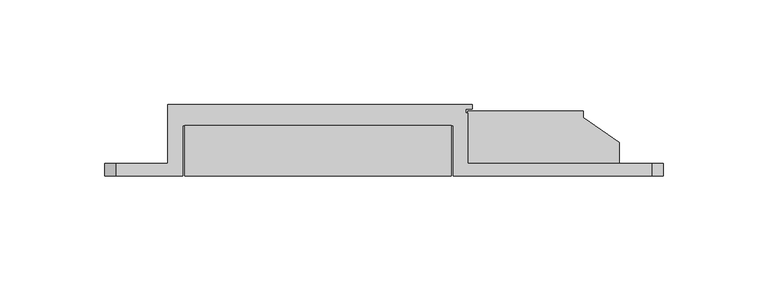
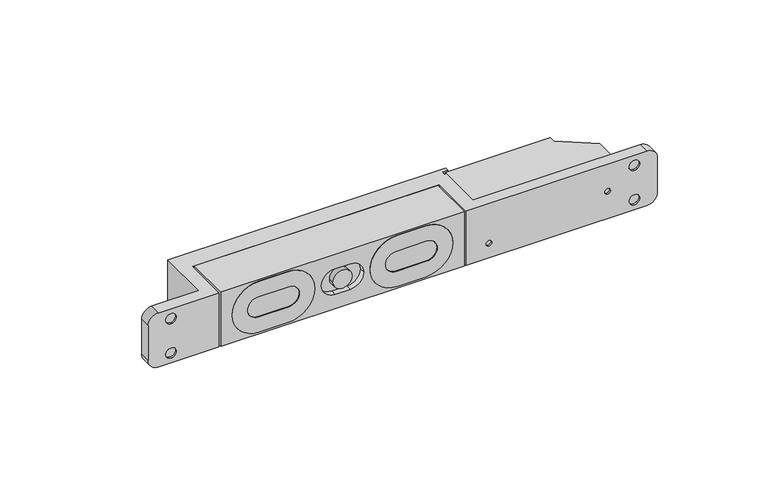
"""IFC4 building model written with IfcOpenShell, lengths in millimetres: proxy geometry, Электромагнитный_замок_ML-1200N2(1)_с_герконом_AccordTec_R19 : Электромагнитный_замок_ML-1200N2(1)_с_герконом_AccordTec_R19."""

from ifc_helpers import new_model, si_unit, point, frame, frame_2d, origin, origin_with_axes, place, context, project, spatial, polyline, circle_curve, trimmed, segment, composite_curve, outline, extrude, source, transform, mapped, element, save
from ifc_brep_helpers import plane_surface, cylinder_surface, revolved_surface, advanced_brep


def generic_models_7b6c8938(model_context):
    return source(origin(), model_context, "Body", "SolidModel", [
        extrude(outline(composite_curve([segment(trimmed(circle_curve(frame_2d((14.96, 58.04)), 14.04), [point((29.0, 58.04))], [point((15.0, 44.000057))], False, "CARTESIAN"), True, "CONTINUOUS"), segment(trimmed(circle_curve(frame_2d((15.04, 58.04)), 14.04), [point((15.0, 44.000057))], [point((1.0, 58.04))], False, "CARTESIAN"), True, "CONTINUOUS"), segment(polyline([(1.0, 58.04), (1.0, 72.96)]), True, "CONTINUOUS"), segment(trimmed(circle_curve(frame_2d((15.04, 72.96)), 14.04), [point((1.0, 72.96))], [point((15.0, 86.999943))], False, "CARTESIAN"), True, "CONTINUOUS"), segment(trimmed(circle_curve(frame_2d((14.96, 72.96)), 14.04), [point((15.0, 86.999943))], [point((29.0, 72.96))], False, "CARTESIAN"), True, "CONTINUOUS"), segment(polyline([(29.0, 72.96), (29.0, 58.04)]), True, "CONTINUOUS")], self_intersect=False), holes=[composite_curve([segment(trimmed(circle_curve(frame_2d((15.0, 73.5)), 5.5), [point((15.0, 79.0))], [point((9.5, 73.5))], True, "CARTESIAN"), True, "CONTINUOUS"), segment(polyline([(9.5, 73.5), (9.5, 57.5)]), True, "CONTINUOUS"), segment(trimmed(circle_curve(frame_2d((15.0, 57.5)), 5.5), [point((9.5, 57.5))], [point((15.0, 52.0))], True, "CARTESIAN"), True, "CONTINUOUS"), segment(trimmed(circle_curve(frame_2d((15.0, 57.5)), 5.5), [point((15.0, 52.0))], [point((20.5, 57.5))], True, "CARTESIAN"), True, "CONTINUOUS"), segment(polyline([(20.5, 57.5), (20.5, 73.5)]), True, "CONTINUOUS"), segment(trimmed(circle_curve(frame_2d((15.0, 73.5)), 5.5), [point((20.5, 73.5))], [point((15.0, 79.0))], True, "CARTESIAN"), True, "CONTINUOUS")], self_intersect=False)]), frame((0.0, 0.0, 0.0), z_axis=(0.0, 1.0, 0.0), x_axis=(0.0, 0.0, 1.0)), (0.0, 0.0, 1.0), 1.0),
        extrude(outline(composite_curve([segment(trimmed(circle_curve(frame_2d((15.04, 130.04)), 14.04), [point((15.0, 116.000057))], [point((1.0, 130.04))], False, "CARTESIAN"), True, "CONTINUOUS"), segment(polyline([(1.0, 130.04), (1.0, 144.96)]), True, "CONTINUOUS"), segment(trimmed(circle_curve(frame_2d((15.04, 144.96)), 14.04), [point((1.0, 144.96))], [point((15.0, 158.999943))], False, "CARTESIAN"), True, "CONTINUOUS"), segment(trimmed(circle_curve(frame_2d((14.96, 144.96)), 14.04), [point((15.0, 158.999943))], [point((29.0, 144.96))], False, "CARTESIAN"), True, "CONTINUOUS"), segment(polyline([(29.0, 144.96), (29.0, 130.04)]), True, "CONTINUOUS"), segment(trimmed(circle_curve(frame_2d((14.96, 130.04)), 14.04), [point((29.0, 130.04))], [point((15.0, 116.000057))], False, "CARTESIAN"), True, "CONTINUOUS")], self_intersect=False), holes=[composite_curve([segment(polyline([(20.5, 129.5), (20.5, 145.5)]), True, "CONTINUOUS"), segment(trimmed(circle_curve(frame_2d((15.0, 145.5)), 5.5), [point((20.5, 145.5))], [point((15.0, 151.0))], True, "CARTESIAN"), True, "CONTINUOUS"), segment(trimmed(circle_curve(frame_2d((15.0, 145.5)), 5.5), [point((15.0, 151.0))], [point((9.5, 145.5))], True, "CARTESIAN"), True, "CONTINUOUS"), segment(polyline([(9.5, 145.5), (9.5, 129.5)]), True, "CONTINUOUS"), segment(trimmed(circle_curve(frame_2d((15.0, 129.5)), 5.5), [point((9.5, 129.5))], [point((15.0, 124.0))], True, "CARTESIAN"), True, "CONTINUOUS"), segment(trimmed(circle_curve(frame_2d((15.0, 129.5)), 5.5), [point((15.0, 124.0))], [point((20.5, 129.5))], True, "CARTESIAN"), True, "CONTINUOUS")], self_intersect=False)]), frame((0.0, 0.0, 0.0), z_axis=(0.0, 1.0, 0.0), x_axis=(0.0, 0.0, 1.0)), (0.0, 0.0, 1.0), 1.0),
        advanced_brep(
        [(165.0, 24.0, 30.0), (38.0, 24.0, 30.0), (38.0, 0.0, 30.0), (165.0, 0.0, 30.0), (165.0, 24.0, 0.0), (165.0, 0.0, 0.0), (38.0, 0.0, 0.0), (38.0, 24.0, 0.0), (44.000057, 0.0, 15.0), (58.04, 0.0, 29.0), (72.96, 0.0, 29.0), (86.999943, 0.0, 15.0), (72.96, 0.0, 1.0), (58.04, 0.0, 1.0), (130.04, 0.0, 1.0), (116.000057, 0.0, 15.0), (130.04, 0.0, 29.0), (144.96, 0.0, 29.0), (158.999943, 0.0, 15.0), (144.96, 0.0, 1.0), (97.5, 0.0, 22.0), (105.5, 0.0, 22.0), (112.5, 0.0, 15.0), (105.5, 0.0, 8.0), (97.5, 0.0, 8.0), (90.5, 0.0, 15.0), (57.5, 0.0, 20.5), (52.0, 0.0, 15.0), (57.5, 0.0, 9.5), (73.5, 0.0, 9.5), (79.0, 0.0, 15.0), (73.5, 0.0, 20.5), (124.0, 0.0, 15.0), (129.5, 0.0, 9.5), (145.5, 0.0, 9.5), (151.0, 0.0, 15.0), (145.5, 0.0, 20.5), (129.5, 0.0, 20.5), (106.5, 0.0, 15.0), (96.5, 0.0, 15.0), (58.04, 3.0, 29.0), (44.000057, 3.0, 15.0), (58.04, 3.0, 1.0), (72.96, 3.0, 1.0), (86.999943, 3.0, 15.0), (72.96, 3.0, 29.0), (52.0, 3.0, 15.0), (57.5, 3.0, 20.5), (73.5, 3.0, 20.5), (79.0, 3.0, 15.0), (73.5, 3.0, 9.5), (57.5, 3.0, 9.5), (116.000057, 3.0, 15.0), (130.04, 3.0, 1.0), (144.96, 3.0, 1.0), (158.999943, 3.0, 15.0), (144.96, 3.0, 29.0), (130.04, 3.0, 29.0), (129.5, 3.0, 9.5), (124.0, 3.0, 15.0), (129.5, 3.0, 20.5), (145.5, 3.0, 20.5), (151.0, 3.0, 15.0), (145.5, 3.0, 9.5), (105.5, 3.0, 22.0), (97.5, 3.0, 22.0), (90.5, 3.0, 15.0), (97.5, 3.0, 8.0), (105.5, 3.0, 8.0), (112.5, 3.0, 15.0), (96.5, 3.0, 15.0), (106.5, 3.0, 15.0)],
        [
            (0, 1),
            (1, 2),
            (2, 3),
            (3, 0),
            (4, 5),
            (5, 6),
            (6, 7),
            (7, 4),
            (0, 4),
            (7, 1),
            (6, 2),
            (5, 3),
            (8, 9, circle_curve(frame((58.04, 0.0, 14.96), z_axis=(0.0, 1.0, 0.0), x_axis=(1.0, 0.0, 0.0)), 14.04)),
            (9, 10),
            (10, 11, circle_curve(frame((72.96, 0.0, 14.96), z_axis=(0.0, 1.0, 0.0), x_axis=(1.0, 0.0, 0.0)), 14.04)),
            (11, 12, circle_curve(frame((72.96, 0.0, 15.04), z_axis=(0.0, 1.0, 0.0), x_axis=(1.0, 0.0, 0.0)), 14.04)),
            (12, 13),
            (13, 8, circle_curve(frame((58.04, 0.0, 15.04), z_axis=(0.0, 1.0, 0.0), x_axis=(1.0, 0.0, 0.0)), 14.04)),
            (14, 15, circle_curve(frame((130.04, 0.0, 15.04), z_axis=(0.0, 1.0, 0.0), x_axis=(1.0, 0.0, 0.0)), 14.04)),
            (15, 16, circle_curve(frame((130.04, 0.0, 14.96), z_axis=(0.0, 1.0, 0.0), x_axis=(1.0, 0.0, 0.0)), 14.04)),
            (16, 17),
            (17, 18, circle_curve(frame((144.96, 0.0, 14.96), z_axis=(0.0, 1.0, 0.0), x_axis=(1.0, 0.0, 0.0)), 14.04)),
            (18, 19, circle_curve(frame((144.96, 0.0, 15.04), z_axis=(0.0, 1.0, 0.0), x_axis=(1.0, 0.0, 0.0)), 14.04)),
            (19, 14),
            (20, 21),
            (21, 22, circle_curve(frame((105.5, 0.0, 15.0), z_axis=(0.0, 1.0, 0.0), x_axis=(1.0, 0.0, 0.0)), 7.0)),
            (22, 23, circle_curve(frame((105.5, 0.0, 15.0), z_axis=(0.0, 1.0, 0.0), x_axis=(1.0, 0.0, 0.0)), 7.0)),
            (23, 24),
            (24, 25, circle_curve(frame((97.5, 0.0, 15.0), z_axis=(0.0, 1.0, 0.0), x_axis=(1.0, 0.0, 0.0)), 7.0)),
            (25, 20, circle_curve(frame((97.5, 0.0, 15.0), z_axis=(0.0, 1.0, 0.0), x_axis=(1.0, 0.0, 0.0)), 7.0)),
            (26, 27, circle_curve(frame((57.5, 0.0, 15.0), z_axis=(0.0, -1.0, 0.0), x_axis=(1.0, 0.0, 0.0)), 5.5)),
            (27, 28, circle_curve(frame((57.5, 0.0, 15.0), z_axis=(0.0, -1.0, 0.0), x_axis=(1.0, 0.0, 0.0)), 5.5)),
            (28, 29),
            (29, 30, circle_curve(frame((73.5, 0.0, 15.0), z_axis=(0.0, -1.0, 0.0), x_axis=(1.0, 0.0, 0.0)), 5.5)),
            (30, 31, circle_curve(frame((73.5, 0.0, 15.0), z_axis=(0.0, -1.0, 0.0), x_axis=(1.0, 0.0, 0.0)), 5.5)),
            (31, 26),
            (32, 33, circle_curve(frame((129.5, 0.0, 15.0), z_axis=(0.0, -1.0, 0.0), x_axis=(1.0, 0.0, 0.0)), 5.5)),
            (33, 34),
            (34, 35, circle_curve(frame((145.5, 0.0, 15.0), z_axis=(0.0, -1.0, 0.0), x_axis=(1.0, 0.0, 0.0)), 5.5)),
            (35, 36, circle_curve(frame((145.5, 0.0, 15.0), z_axis=(0.0, -1.0, 0.0), x_axis=(1.0, 0.0, 0.0)), 5.5)),
            (36, 37),
            (37, 32, circle_curve(frame((129.5, 0.0, 15.0), z_axis=(0.0, -1.0, 0.0), x_axis=(1.0, 0.0, 0.0)), 5.5)),
            (38, 39, circle_curve(frame((101.5, 0.0, 15.0), z_axis=(0.0, -1.0, 0.0), x_axis=(1.0, 0.0, 0.0)), 5.0)),
            (39, 38, circle_curve(frame((101.5, 0.0, 15.0), z_axis=(0.0, -1.0, 0.0), x_axis=(1.0, 0.0, 0.0)), 5.0)),
            (40, 41, circle_curve(frame((58.04, 3.0, 14.96), z_axis=(0.0, -1.0, 0.0), x_axis=(1.0, 0.0, 0.0)), 14.04)),
            (41, 42, circle_curve(frame((58.04, 3.0, 15.04), z_axis=(0.0, -1.0, 0.0), x_axis=(1.0, 0.0, 0.0)), 14.04)),
            (42, 43),
            (43, 44, circle_curve(frame((72.96, 3.0, 15.04), z_axis=(0.0, -1.0, 0.0), x_axis=(1.0, 0.0, 0.0)), 14.04)),
            (44, 45, circle_curve(frame((72.96, 3.0, 14.96), z_axis=(0.0, -1.0, 0.0), x_axis=(1.0, 0.0, 0.0)), 14.04)),
            (45, 40),
            (46, 47, circle_curve(frame((57.5, 3.0, 15.0), z_axis=(0.0, 1.0, 0.0), x_axis=(1.0, 0.0, 0.0)), 5.5)),
            (47, 48),
            (48, 49, circle_curve(frame((73.5, 3.0, 15.0), z_axis=(0.0, 1.0, 0.0), x_axis=(1.0, 0.0, 0.0)), 5.5)),
            (49, 50, circle_curve(frame((73.5, 3.0, 15.0), z_axis=(0.0, 1.0, 0.0), x_axis=(1.0, 0.0, 0.0)), 5.5)),
            (50, 51),
            (51, 46, circle_curve(frame((57.5, 3.0, 15.0), z_axis=(0.0, 1.0, 0.0), x_axis=(1.0, 0.0, 0.0)), 5.5)),
            (52, 53, circle_curve(frame((130.04, 3.0, 15.04), z_axis=(0.0, -1.0, 0.0), x_axis=(1.0, 0.0, 0.0)), 14.04)),
            (53, 54),
            (54, 55, circle_curve(frame((144.96, 3.0, 15.04), z_axis=(0.0, -1.0, 0.0), x_axis=(1.0, 0.0, 0.0)), 14.04)),
            (55, 56, circle_curve(frame((144.96, 3.0, 14.96), z_axis=(0.0, -1.0, 0.0), x_axis=(1.0, 0.0, 0.0)), 14.04)),
            (56, 57),
            (57, 52, circle_curve(frame((130.04, 3.0, 14.96), z_axis=(0.0, -1.0, 0.0), x_axis=(1.0, 0.0, 0.0)), 14.04)),
            (58, 59, circle_curve(frame((129.5, 3.0, 15.0), z_axis=(0.0, 1.0, 0.0), x_axis=(1.0, 0.0, 0.0)), 5.5)),
            (59, 60, circle_curve(frame((129.5, 3.0, 15.0), z_axis=(0.0, 1.0, 0.0), x_axis=(1.0, 0.0, 0.0)), 5.5)),
            (60, 61),
            (61, 62, circle_curve(frame((145.5, 3.0, 15.0), z_axis=(0.0, 1.0, 0.0), x_axis=(1.0, 0.0, 0.0)), 5.5)),
            (62, 63, circle_curve(frame((145.5, 3.0, 15.0), z_axis=(0.0, 1.0, 0.0), x_axis=(1.0, 0.0, 0.0)), 5.5)),
            (63, 58),
            (64, 65),
            (65, 66, circle_curve(frame((97.5, 3.0, 15.0), z_axis=(0.0, -1.0, 0.0), x_axis=(1.0, 0.0, 0.0)), 7.0)),
            (66, 67, circle_curve(frame((97.5, 3.0, 15.0), z_axis=(0.0, -1.0, 0.0), x_axis=(1.0, 0.0, 0.0)), 7.0)),
            (67, 68),
            (68, 69, circle_curve(frame((105.5, 3.0, 15.0), z_axis=(0.0, -1.0, 0.0), x_axis=(1.0, 0.0, 0.0)), 7.0)),
            (69, 64, circle_curve(frame((105.5, 3.0, 15.0), z_axis=(0.0, -1.0, 0.0), x_axis=(1.0, 0.0, 0.0)), 7.0)),
            (70, 71, circle_curve(frame((101.5, 3.0, 15.0), z_axis=(0.0, 1.0, 0.0), x_axis=(1.0, 0.0, 0.0)), 5.0)),
            (71, 70, circle_curve(frame((101.5, 3.0, 15.0), z_axis=(0.0, 1.0, 0.0), x_axis=(1.0, 0.0, 0.0)), 5.0)),
            (40, 9),
            (8, 41),
            (13, 42),
            (12, 43),
            (11, 44),
            (10, 45),
            (46, 27),
            (26, 47),
            (31, 48),
            (30, 49),
            (29, 50),
            (28, 51),
            (52, 15),
            (14, 53),
            (19, 54),
            (18, 55),
            (17, 56),
            (16, 57),
            (58, 33),
            (32, 59),
            (37, 60),
            (36, 61),
            (35, 62),
            (34, 63),
            (64, 21),
            (20, 65),
            (25, 66),
            (24, 67),
            (23, 68),
            (22, 69),
            (70, 39),
            (38, 71),
        ],
        [
            plane_surface(frame((38.0, 24.0, 30.0), z_axis=(0.0, 0.0, 1.0), x_axis=(-1.0, 0.0, 0.0))),
            plane_surface(frame((38.0, 24.0, 0.0), z_axis=(0.0, 0.0, -1.0), x_axis=(1.0, 0.0, 0.0))),
            plane_surface(frame((165.0, 24.0, 30.0), z_axis=(0.0, 1.0, 0.0), x_axis=(0.0, 0.0, -1.0))),
            plane_surface(frame((38.0, 24.0, 30.0), z_axis=(-1.0, 0.0, 0.0), x_axis=(0.0, 0.0, -1.0))),
            plane_surface(frame((38.0, 0.0, 30.0), z_axis=(0.0, -1.0, 0.0), x_axis=(0.0, 0.0, -1.0))),
            plane_surface(frame((165.0, 0.0, 30.0), z_axis=(1.0, 0.0, 0.0), x_axis=(0.0, 0.0, -1.0))),
            plane_surface(frame((72.08, 3.0, 14.96), z_axis=(0.0, -1.0, 0.0), x_axis=(0.0, 0.0, -1.0))),
            revolved_surface(polyline([(72.08, 0.0, 14.96), (72.08, 3.0, 14.96)]), (58.04, 3.0, 14.96), (0.0, -1.0, 0.0)),
            revolved_surface(polyline([(72.08, 0.0, 15.04), (72.08, 3.0, 15.04)]), (58.04, 3.0, 15.04), (0.0, -1.0, 0.0)),
            plane_surface(frame((58.04, -1.0, 1.0), z_axis=(0.0, 0.0, 1.0), x_axis=(0.0, 1.0, 0.0))),
            revolved_surface(polyline([(87.0, 0.0, 15.04), (87.0, 3.0, 15.04)]), (72.96, 3.0, 15.04), (0.0, -1.0, 0.0)),
            revolved_surface(polyline([(87.0, 0.0, 14.96), (87.0, 3.0, 14.96)]), (72.96, 3.0, 14.96), (0.0, -1.0, 0.0)),
            plane_surface(frame((72.96, -1.0, 29.0), z_axis=(0.0, 0.0, -1.0), x_axis=(0.0, 1.0, 0.0))),
            cylinder_surface(frame((57.5, 0.0, 15.0), z_axis=(0.0, 1.0, 0.0), x_axis=(1.0, 0.0, 0.0)), 5.5),
            plane_surface(frame((57.5, -1.0, 20.5), z_axis=(0.0, 0.0, 1.0), x_axis=(0.0, 1.0, 0.0))),
            cylinder_surface(frame((73.5, 0.0, 15.0), z_axis=(0.0, 1.0, 0.0), x_axis=(1.0, 0.0, 0.0)), 5.5),
            plane_surface(frame((73.5, -1.0, 9.5), z_axis=(0.0, 0.0, -1.0), x_axis=(0.0, 1.0, 0.0))),
            revolved_surface(polyline([(144.07999999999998, 0.0, 15.04), (144.07999999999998, 3.0, 15.04)]), (130.04, 0.0, 15.04), (0.0, -1.0, 0.0)),
            plane_surface(frame((130.04, -1.0, 1.0), z_axis=(0.0, 0.0, 1.0), x_axis=(0.0, 1.0, 0.0))),
            revolved_surface(polyline([(159.0, 0.0, 15.04), (159.0, 3.0, 15.04)]), (144.96, 0.0, 15.04), (0.0, -1.0, 0.0)),
            revolved_surface(polyline([(159.0, 0.0, 14.96), (159.0, 3.0, 14.96)]), (144.96, 0.0, 14.96), (0.0, -1.0, 0.0)),
            plane_surface(frame((144.96, -1.0, 29.0), z_axis=(0.0, 0.0, -1.0), x_axis=(0.0, 1.0, 0.0))),
            revolved_surface(polyline([(144.07999999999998, 0.0, 14.96), (144.07999999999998, 3.0, 14.96)]), (130.04, 0.0, 14.96), (0.0, -1.0, 0.0)),
            cylinder_surface(frame((129.5, 0.0, 15.0), z_axis=(0.0, 1.0, 0.0), x_axis=(1.0, 0.0, 0.0)), 5.5),
            plane_surface(frame((129.5, -1.0, 20.5), z_axis=(0.0, 0.0, 1.0), x_axis=(0.0, 1.0, 0.0))),
            cylinder_surface(frame((145.5, 0.0, 15.0), z_axis=(0.0, 1.0, 0.0), x_axis=(1.0, 0.0, 0.0)), 5.5),
            plane_surface(frame((145.5, -1.0, 9.5), z_axis=(0.0, 0.0, -1.0), x_axis=(0.0, 1.0, 0.0))),
            plane_surface(frame((105.5, -1.0, 22.0), z_axis=(0.0, 0.0, -1.0), x_axis=(0.0, 1.0, 0.0))),
            revolved_surface(polyline([(104.5, 0.0, 15.0), (104.5, 3.0, 15.0)]), (97.5, 0.0, 15.0), (0.0, -1.0, 0.0)),
            plane_surface(frame((97.5, -1.0, 8.0), z_axis=(0.0, 0.0, 1.0), x_axis=(0.0, 1.0, 0.0))),
            revolved_surface(polyline([(112.5, 0.0, 15.0), (112.5, 3.0, 15.0)]), (105.5, 0.0, 15.0), (0.0, -1.0, 0.0)),
            cylinder_surface(frame((101.5, 0.0, 15.0), z_axis=(0.0, 1.0, 0.0), x_axis=(1.0, 0.0, 0.0)), 5.0),
        ],
        [
            (0, [[1, 2, 3, 4]]),
            (1, [[5, 6, 7, 8]]),
            (2, [[-1, 9, -8, 10]]),
            (3, [[-2, -10, -7, 11]]),
            (4, [[-3, -11, -6, 12], [13, 14, 15, 16, 17, 18], [19, 20, 21, 22, 23, 24], [25, 26, 27, 28, 29, 30]]),
            (4, [[31, 32, 33, 34, 35, 36]]),
            (4, [[37, 38, 39, 40, 41, 42]]),
            (4, [[43, 44]]),
            (5, [[-4, -12, -5, -9]]),
            (6, [[45, 46, 47, 48, 49, 50], [51, 52, 53, 54, 55, 56]]),
            (6, [[57, 58, 59, 60, 61, 62], [63, 64, 65, 66, 67, 68]]),
            (6, [[69, 70, 71, 72, 73, 74], [75, 76]]),
            (7, [[-45, 77, -13, 78]]),
            (8, [[-46, -78, -18, 79]]),
            (9, [[-47, -79, -17, 80]]),
            (10, [[-48, -80, -16, 81]]),
            (11, [[-49, -81, -15, 82]]),
            (12, [[-50, -82, -14, -77]]),
            (13, [[-51, 83, -31, 84]]),
            (14, [[-52, -84, -36, 85]]),
            (15, [[-53, -85, -35, 86]]),
            (15, [[-54, -86, -34, 87]]),
            (16, [[-55, -87, -33, 88]]),
            (13, [[-56, -88, -32, -83]]),
            (17, [[-57, 89, -19, 90]]),
            (18, [[-58, -90, -24, 91]]),
            (19, [[-59, -91, -23, 92]]),
            (20, [[-60, -92, -22, 93]]),
            (21, [[-61, -93, -21, 94]]),
            (22, [[-62, -94, -20, -89]]),
            (23, [[-63, 95, -37, 96]]),
            (23, [[-64, -96, -42, 97]]),
            (24, [[-65, -97, -41, 98]]),
            (25, [[-66, -98, -40, 99]]),
            (25, [[-67, -99, -39, 100]]),
            (26, [[-68, -100, -38, -95]]),
            (27, [[-69, 101, -25, 102]]),
            (28, [[-70, -102, -30, 103]]),
            (28, [[-71, -103, -29, 104]]),
            (29, [[-72, -104, -28, 105]]),
            (30, [[-73, -105, -27, 106]]),
            (30, [[-74, -106, -26, -101]]),
            (31, [[-75, 107, -43, 108]]),
            (31, [[-76, -108, -44, -107]]),
        ],
    ),
        advanced_brep(
        [(37.0, 0.0, 30.0), (37.0, 24.0, 30.0), (166.0, 24.0, 30.0), (166.0, 0.0, 30.0), (260.5, 0.0, 30.0), (260.5, 6.0, 30.0), (173.0, 6.0, 30.0), (173.0, 30.0, 30.0), (172.0, 30.0, 30.0), (172.0, 32.0, 30.0), (175.0, 32.0, 30.0), (175.0, 34.0, 30.0), (30.0, 34.0, 30.0), (30.0, 6.0, 30.0), (5.4717121, 6.0, 30.0), (5.4717121, 0.0, 30.0), (30.0, 6.0, 0.0), (30.0, 34.0, 0.0), (175.0, 34.0, 0.0), (175.0, 32.0, 0.0), (172.0, 32.0, 0.0), (172.0, 30.0, 0.0), (173.0, 30.0, 0.0), (173.0, 6.0, 0.0), (260.5, 6.0, 0.0), (260.5, 0.0, 0.0), (166.0, 0.0, 0.0), (166.0, 24.0, 0.0), (37.0, 24.0, 0.0), (37.0, 0.0, 0.0), (5.5, 0.0, 0.0), (5.5, 6.0, 0.0), (266.0, 0.0, 5.5), (266.0, 0.0, 24.5), (179.5, 0.0, 8.0), (176.5, 0.0, 8.0), (241.5, 0.0, 15.0), (238.5, 0.0, 15.0), (256.75, 0.0, 24.5), (251.25, 0.0, 24.5), (256.75, 0.0, 5.5), (251.25, 0.0, 5.5), (266.0, 6.0, 5.5), (266.0, 6.0, 24.5), (251.25, 6.0, 24.5), (256.75, 6.0, 24.5), (251.25, 6.0, 5.5), (256.75, 6.0, 5.5), (58.0, 34.0, 15.0), (64.0, 34.0, 15.0), (0.0, 6.0, 5.5), (0.0, 6.0, 24.5282879), (9.25, 6.0, 24.5), (14.75, 6.0, 24.5), (9.25, 6.0, 5.5), (14.75, 6.0, 5.5), (0.0, 0.0, 5.5), (0.0, 0.0, 24.5282879), (14.75, 0.0, 24.5), (9.25, 0.0, 24.5), (14.75, 0.0, 5.5), (9.25, 0.0, 5.5), (9.25, 1.0, 24.5), (14.75, 1.0, 24.5), (9.25, 1.0, 5.5), (14.75, 1.0, 5.5), (176.5, 1.0, 8.0), (179.5, 1.0, 8.0), (238.5, 1.0, 15.0), (241.5, 1.0, 15.0), (251.25, 1.0, 24.5), (256.75, 1.0, 24.5), (251.25, 1.0, 5.5), (256.75, 1.0, 5.5), (58.0, 33.0, 15.0), (64.0, 33.0, 15.0), (9.25, 5.0, 24.5), (14.75, 5.0, 24.5), (9.25, 5.0, 5.5), (14.75, 5.0, 5.5), (251.25, 5.0, 24.5), (256.75, 5.0, 24.5), (251.25, 5.0, 5.5), (256.75, 5.0, 5.5)],
        [
            (0, 1),
            (1, 2),
            (2, 3),
            (3, 4),
            (4, 5),
            (5, 6),
            (6, 7),
            (7, 8),
            (8, 9),
            (9, 10),
            (10, 11),
            (11, 12),
            (12, 13),
            (13, 14),
            (14, 15),
            (15, 0),
            (16, 17),
            (17, 18),
            (18, 19),
            (19, 20),
            (20, 21),
            (21, 22),
            (22, 23),
            (23, 24),
            (24, 25),
            (25, 26),
            (26, 27),
            (27, 28),
            (28, 29),
            (29, 30),
            (30, 31),
            (31, 16),
            (0, 29),
            (28, 1),
            (27, 2),
            (26, 3),
            (25, 32, circle_curve(frame((260.5, 0.0, 5.5), z_axis=(0.0, -1.0, 0.0), x_axis=(1.0, 0.0, 0.0)), 5.5)),
            (32, 33),
            (33, 4, circle_curve(frame((260.5, 0.0, 24.5), z_axis=(0.0, -1.0, 0.0), x_axis=(1.0, 0.0, 0.0)), 5.5)),
            (34, 35, circle_curve(frame((178.0, 0.0, 8.0), z_axis=(0.0, 1.0, 0.0), x_axis=(1.0, 0.0, 0.0)), 1.5)),
            (35, 34, circle_curve(frame((178.0, 0.0, 8.0), z_axis=(0.0, 1.0, 0.0), x_axis=(1.0, 0.0, 0.0)), 1.5)),
            (36, 37, circle_curve(frame((240.0, 0.0, 15.0), z_axis=(0.0, 1.0, 0.0), x_axis=(1.0, 0.0, 0.0)), 1.5)),
            (37, 36, circle_curve(frame((240.0, 0.0, 15.0), z_axis=(0.0, 1.0, 0.0), x_axis=(1.0, 0.0, 0.0)), 1.5)),
            (38, 39, circle_curve(frame((254.0, 0.0, 24.5), z_axis=(0.0, 1.0, 0.0), x_axis=(1.0, 0.0, 0.0)), 2.75)),
            (39, 38, circle_curve(frame((254.0, 0.0, 24.5), z_axis=(0.0, 1.0, 0.0), x_axis=(1.0, 0.0, 0.0)), 2.75)),
            (40, 41, circle_curve(frame((254.0, 0.0, 5.5), z_axis=(0.0, 1.0, 0.0), x_axis=(1.0, 0.0, 0.0)), 2.75)),
            (41, 40, circle_curve(frame((254.0, 0.0, 5.5), z_axis=(0.0, 1.0, 0.0), x_axis=(1.0, 0.0, 0.0)), 2.75)),
            (32, 42),
            (42, 43),
            (43, 33),
            (23, 6),
            (5, 43, circle_curve(frame((260.5, 6.0, 24.5), z_axis=(0.0, 1.0, 0.0), x_axis=(1.0, 0.0, 0.0)), 5.5)),
            (42, 24, circle_curve(frame((260.5, 6.0, 5.5), z_axis=(0.0, 1.0, 0.0), x_axis=(1.0, 0.0, 0.0)), 5.5)),
            (44, 45, circle_curve(frame((254.0, 6.0, 24.5), z_axis=(0.0, -1.0, 0.0), x_axis=(1.0, 0.0, 0.0)), 2.75)),
            (45, 44, circle_curve(frame((254.0, 6.0, 24.5), z_axis=(0.0, -1.0, 0.0), x_axis=(1.0, 0.0, 0.0)), 2.75)),
            (46, 47, circle_curve(frame((254.0, 6.0, 5.5), z_axis=(0.0, -1.0, 0.0), x_axis=(1.0, 0.0, 0.0)), 2.75)),
            (47, 46, circle_curve(frame((254.0, 6.0, 5.5), z_axis=(0.0, -1.0, 0.0), x_axis=(1.0, 0.0, 0.0)), 2.75)),
            (22, 7),
            (21, 8),
            (20, 9),
            (19, 10),
            (18, 11),
            (17, 12),
            (48, 49, circle_curve(frame((61.0, 34.0, 15.0), z_axis=(0.0, -1.0, 0.0), x_axis=(1.0, 0.0, 0.0)), 3.0)),
            (49, 48, circle_curve(frame((61.0, 34.0, 15.0), z_axis=(0.0, -1.0, 0.0), x_axis=(1.0, 0.0, 0.0)), 3.0)),
            (16, 13),
            (31, 50, circle_curve(frame((5.5, 6.0, 5.5), z_axis=(0.0, 1.0, 0.0), x_axis=(1.0, 0.0, 0.0)), 5.5)),
            (50, 51),
            (51, 14, circle_curve(frame((5.4717121, 6.0, 24.5282879), z_axis=(0.0, 1.0, 0.0), x_axis=(1.0, 0.0, 0.0)), 5.4717121)),
            (52, 53, circle_curve(frame((12.0, 6.0, 24.5), z_axis=(0.0, -1.0, 0.0), x_axis=(1.0, 0.0, 0.0)), 2.75)),
            (53, 52, circle_curve(frame((12.0, 6.0, 24.5), z_axis=(0.0, -1.0, 0.0), x_axis=(1.0, 0.0, 0.0)), 2.75)),
            (54, 55, circle_curve(frame((12.0, 6.0, 5.5), z_axis=(0.0, -1.0, 0.0), x_axis=(1.0, 0.0, 0.0)), 2.75)),
            (55, 54, circle_curve(frame((12.0, 6.0, 5.5), z_axis=(0.0, -1.0, 0.0), x_axis=(1.0, 0.0, 0.0)), 2.75)),
            (50, 56),
            (56, 57),
            (57, 51),
            (15, 57, circle_curve(frame((5.4717121, 0.0, 24.5282879), z_axis=(0.0, -1.0, 0.0), x_axis=(1.0, 0.0, 0.0)), 5.4717121)),
            (56, 30, circle_curve(frame((5.5, 0.0, 5.5), z_axis=(0.0, -1.0, 0.0), x_axis=(1.0, 0.0, 0.0)), 5.5)),
            (58, 59, circle_curve(frame((12.0, 0.0, 24.5), z_axis=(0.0, 1.0, 0.0), x_axis=(1.0, 0.0, 0.0)), 2.75)),
            (59, 58, circle_curve(frame((12.0, 0.0, 24.5), z_axis=(0.0, 1.0, 0.0), x_axis=(1.0, 0.0, 0.0)), 2.75)),
            (60, 61, circle_curve(frame((12.0, 0.0, 5.5), z_axis=(0.0, 1.0, 0.0), x_axis=(1.0, 0.0, 0.0)), 2.75)),
            (61, 60, circle_curve(frame((12.0, 0.0, 5.5), z_axis=(0.0, 1.0, 0.0), x_axis=(1.0, 0.0, 0.0)), 2.75)),
            (62, 63, circle_curve(frame((12.0, 1.0, 24.5), z_axis=(0.0, -1.0, 0.0), x_axis=(1.0, 0.0, 0.0)), 2.75)),
            (63, 62, circle_curve(frame((12.0, 1.0, 24.5), z_axis=(0.0, -1.0, 0.0), x_axis=(1.0, 0.0, 0.0)), 2.75)),
            (64, 65, circle_curve(frame((12.0, 1.0, 5.5), z_axis=(0.0, -1.0, 0.0), x_axis=(1.0, 0.0, 0.0)), 2.75)),
            (65, 64, circle_curve(frame((12.0, 1.0, 5.5), z_axis=(0.0, -1.0, 0.0), x_axis=(1.0, 0.0, 0.0)), 2.75)),
            (66, 67, circle_curve(frame((178.0, 1.0, 8.0), z_axis=(0.0, -1.0, 0.0), x_axis=(1.0, 0.0, 0.0)), 1.5)),
            (67, 66, circle_curve(frame((178.0, 1.0, 8.0), z_axis=(0.0, -1.0, 0.0), x_axis=(1.0, 0.0, 0.0)), 1.5)),
            (68, 69, circle_curve(frame((240.0, 1.0, 15.0), z_axis=(0.0, -1.0, 0.0), x_axis=(1.0, 0.0, 0.0)), 1.5)),
            (69, 68, circle_curve(frame((240.0, 1.0, 15.0), z_axis=(0.0, -1.0, 0.0), x_axis=(1.0, 0.0, 0.0)), 1.5)),
            (70, 71, circle_curve(frame((254.0, 1.0, 24.5), z_axis=(0.0, -1.0, 0.0), x_axis=(1.0, 0.0, 0.0)), 2.75)),
            (71, 70, circle_curve(frame((254.0, 1.0, 24.5), z_axis=(0.0, -1.0, 0.0), x_axis=(1.0, 0.0, 0.0)), 2.75)),
            (72, 73, circle_curve(frame((254.0, 1.0, 5.5), z_axis=(0.0, -1.0, 0.0), x_axis=(1.0, 0.0, 0.0)), 2.75)),
            (73, 72, circle_curve(frame((254.0, 1.0, 5.5), z_axis=(0.0, -1.0, 0.0), x_axis=(1.0, 0.0, 0.0)), 2.75)),
            (62, 59),
            (58, 63),
            (64, 61),
            (60, 65),
            (66, 35),
            (34, 67),
            (68, 37),
            (36, 69),
            (70, 39),
            (38, 71),
            (72, 41),
            (40, 73),
            (74, 75, circle_curve(frame((61.0, 33.0, 15.0), z_axis=(0.0, 1.0, 0.0), x_axis=(1.0, 0.0, 0.0)), 3.0)),
            (75, 74, circle_curve(frame((61.0, 33.0, 15.0), z_axis=(0.0, 1.0, 0.0), x_axis=(1.0, 0.0, 0.0)), 3.0)),
            (75, 49),
            (48, 74),
            (76, 77, circle_curve(frame((12.0, 5.0, 24.5), z_axis=(0.0, 1.0, 0.0), x_axis=(1.0, 0.0, 0.0)), 2.75)),
            (77, 76, circle_curve(frame((12.0, 5.0, 24.5), z_axis=(0.0, 1.0, 0.0), x_axis=(1.0, 0.0, 0.0)), 2.75)),
            (78, 79, circle_curve(frame((12.0, 5.0, 5.5), z_axis=(0.0, 1.0, 0.0), x_axis=(1.0, 0.0, 0.0)), 2.75)),
            (79, 78, circle_curve(frame((12.0, 5.0, 5.5), z_axis=(0.0, 1.0, 0.0), x_axis=(1.0, 0.0, 0.0)), 2.75)),
            (80, 81, circle_curve(frame((254.0, 5.0, 24.5), z_axis=(0.0, 1.0, 0.0), x_axis=(1.0, 0.0, 0.0)), 2.75)),
            (81, 80, circle_curve(frame((254.0, 5.0, 24.5), z_axis=(0.0, 1.0, 0.0), x_axis=(1.0, 0.0, 0.0)), 2.75)),
            (82, 83, circle_curve(frame((254.0, 5.0, 5.5), z_axis=(0.0, 1.0, 0.0), x_axis=(1.0, 0.0, 0.0)), 2.75)),
            (83, 82, circle_curve(frame((254.0, 5.0, 5.5), z_axis=(0.0, 1.0, 0.0), x_axis=(1.0, 0.0, 0.0)), 2.75)),
            (77, 53),
            (52, 76),
            (79, 55),
            (54, 78),
            (81, 45),
            (44, 80),
            (83, 47),
            (46, 82),
        ],
        [
            plane_surface(frame((37.0, 0.0, 30.0), z_axis=(0.0, 0.0, 1.0), x_axis=(0.0, 1.0, 0.0))),
            plane_surface(frame((37.0, 0.0, 0.0), z_axis=(0.0, 0.0, -1.0), x_axis=(0.0, -1.0, 0.0))),
            plane_surface(frame((37.0, 0.0, 30.0), z_axis=(1.0, 0.0, 0.0), x_axis=(0.0, 0.0, -1.0))),
            plane_surface(frame((37.0, 24.0, 30.0), z_axis=(0.0, -1.0, 0.0), x_axis=(0.0, 0.0, -1.0))),
            plane_surface(frame((166.0, 24.0, 30.0), z_axis=(-1.0, 0.0, 0.0), x_axis=(0.0, 0.0, -1.0))),
            plane_surface(frame((166.0, 0.0, 30.0), z_axis=(0.0, -1.0, 0.0), x_axis=(0.0, 0.0, -1.0))),
            plane_surface(frame((266.0, 0.0, 30.0), z_axis=(1.0, 0.0, 0.0), x_axis=(0.0, 0.0, -1.0))),
            plane_surface(frame((266.0, 6.0, 30.0), z_axis=(0.0, 1.0, 0.0), x_axis=(0.0, 0.0, -1.0))),
            plane_surface(frame((173.0, 6.0, 30.0), z_axis=(1.0, 0.0, 0.0), x_axis=(0.0, 0.0, -1.0))),
            plane_surface(frame((173.0, 30.0, 30.0), z_axis=(0.0, 1.0, 0.0), x_axis=(0.0, 0.0, -1.0))),
            plane_surface(frame((172.0, 30.0, 30.0), z_axis=(1.0, 0.0, 0.0), x_axis=(0.0, 0.0, -1.0))),
            plane_surface(frame((172.0, 32.0, 30.0), z_axis=(0.0, -1.0, 0.0), x_axis=(0.0, 0.0, -1.0))),
            plane_surface(frame((175.0, 32.0, 30.0), z_axis=(1.0, 0.0, 0.0), x_axis=(0.0, 0.0, -1.0))),
            plane_surface(frame((175.0, 34.0, 30.0), z_axis=(0.0, 1.0, 0.0), x_axis=(0.0, 0.0, -1.0))),
            plane_surface(frame((30.0, 34.0, 30.0), z_axis=(-1.0, 0.0, 0.0), x_axis=(0.0, 0.0, -1.0))),
            plane_surface(frame((30.0, 6.0, 30.0), z_axis=(0.0, 1.0, 0.0), x_axis=(0.0, 0.0, -1.0))),
            plane_surface(frame((0.0, 6.0, 30.0), z_axis=(-1.0, 0.0, 0.0), x_axis=(0.0, 0.0, -1.0))),
            plane_surface(frame((0.0, 0.0, 30.0), z_axis=(0.0, -1.0, 0.0), x_axis=(0.0, 0.0, -1.0))),
            cylinder_surface(frame((5.4717121, 34.0, 24.5282879), z_axis=(0.0, 1.0, 0.0), x_axis=(1.0, 0.0, 0.0)), 5.4717121),
            cylinder_surface(frame((260.5, 34.0, 24.5), z_axis=(0.0, 1.0, 0.0), x_axis=(1.0, 0.0, 0.0)), 5.5),
            cylinder_surface(frame((260.5, 34.0, 5.5), z_axis=(0.0, 1.0, 0.0), x_axis=(1.0, 0.0, 0.0)), 5.5),
            cylinder_surface(frame((5.5, 34.0, 5.5), z_axis=(0.0, 1.0, 0.0), x_axis=(1.0, 0.0, 0.0)), 5.5),
            plane_surface(frame((14.75, 1.0, 24.5), z_axis=(0.0, -1.0, 0.0), x_axis=(0.0, 0.0, -1.0))),
            revolved_surface(polyline([(14.75, 0.0, 24.5), (14.75, 1.0, 24.5)]), (12.0, 1.0, 24.5), (0.0, -1.0, 0.0)),
            revolved_surface(polyline([(14.75, 0.0, 5.5), (14.75, 1.0, 5.5)]), (12.0, 0.0, 5.5), (0.0, -1.0, 0.0)),
            revolved_surface(polyline([(179.5, 0.0, 8.0), (179.5, 1.0, 8.0)]), (178.0, 0.0, 8.0), (0.0, -1.0, 0.0)),
            revolved_surface(polyline([(241.5, 0.0, 15.0), (241.5, 1.0, 15.0)]), (240.0, 0.0, 15.0), (0.0, -1.0, 0.0)),
            revolved_surface(polyline([(256.75, 0.0, 24.5), (256.75, 1.0, 24.5)]), (254.0, 0.0, 24.5), (0.0, -1.0, 0.0)),
            revolved_surface(polyline([(256.75, 0.0, 5.5), (256.75, 1.0, 5.5)]), (254.0, 0.0, 5.5), (0.0, -1.0, 0.0)),
            plane_surface(frame((64.0, 33.0, 15.0), z_axis=(0.0, 1.0, 0.0), x_axis=(0.0, 0.0, 1.0))),
            revolved_surface(polyline([(64.0, 33.0, 15.0), (64.0, 34.0, 15.0)]), (61.0, 35.0, 15.0), (0.0, -1.0, 0.0)),
            plane_surface(frame((14.75, 5.0, 24.5), z_axis=(0.0, 1.0, 0.0), x_axis=(0.0, 0.0, 1.0))),
            revolved_surface(polyline([(14.75, 5.0, 24.5), (14.75, 6.0, 24.5)]), (12.0, 7.0, 24.5), (0.0, -1.0, 0.0)),
            revolved_surface(polyline([(14.75, 5.0, 5.5), (14.75, 6.0, 5.5)]), (12.0, 6.0, 5.5), (0.0, -1.0, 0.0)),
            revolved_surface(polyline([(256.75, 5.0, 24.5), (256.75, 6.0, 24.5)]), (254.0, 6.0, 24.5), (0.0, -1.0, 0.0)),
            revolved_surface(polyline([(256.75, 5.0, 5.5), (256.75, 6.0, 5.5)]), (254.0, 6.0, 5.5), (0.0, -1.0, 0.0)),
        ],
        [
            (0, [[1, 2, 3, 4, 5, 6, 7, 8, 9, 10, 11, 12, 13, 14, 15, 16]]),
            (1, [[17, 18, 19, 20, 21, 22, 23, 24, 25, 26, 27, 28, 29, 30, 31, 32]]),
            (2, [[-1, 33, -29, 34]]),
            (3, [[-2, -34, -28, 35]]),
            (4, [[-3, -35, -27, 36]]),
            (5, [[-36, -26, 37, 38, 39, -4], [40, 41], [42, 43], [44, 45], [46, 47]]),
            (6, [[-38, 48, 49, 50]]),
            (7, [[51, -6, 52, -49, 53, -24], [54, 55], [56, 57]]),
            (8, [[-7, -51, -23, 58]]),
            (9, [[-8, -58, -22, 59]]),
            (10, [[-9, -59, -21, 60]]),
            (11, [[-10, -60, -20, 61]]),
            (12, [[-11, -61, -19, 62]]),
            (13, [[-12, -62, -18, 63], [64, 65]]),
            (14, [[-13, -63, -17, 66]]),
            (15, [[-66, -32, 67, 68, 69, -14], [70, 71], [72, 73]]),
            (16, [[-68, 74, 75, 76]]),
            (17, [[-33, -16, 77, -75, 78, -30], [79, 80], [81, 82]]),
            (18, [[-15, -69, -76, -77]]),
            (19, [[-5, -39, -50, -52]]),
            (20, [[-25, -53, -48, -37]]),
            (21, [[-31, -78, -74, -67]]),
            (22, [[83, 84]]),
            (22, [[85, 86]]),
            (22, [[87, 88]]),
            (22, [[89, 90]]),
            (22, [[91, 92]]),
            (22, [[93, 94]]),
            (23, [[-83, 95, -79, 96]]),
            (23, [[-84, -96, -80, -95]]),
            (24, [[-85, 97, -81, 98]]),
            (24, [[-86, -98, -82, -97]]),
            (25, [[-87, 99, -40, 100]]),
            (25, [[-88, -100, -41, -99]]),
            (26, [[-89, 101, -42, 102]]),
            (26, [[-90, -102, -43, -101]]),
            (27, [[-91, 103, -44, 104]]),
            (27, [[-92, -104, -45, -103]]),
            (28, [[-93, 105, -46, 106]]),
            (28, [[-94, -106, -47, -105]]),
            (29, [[107, 108]]),
            (30, [[-108, 109, -64, 110]]),
            (30, [[-107, -110, -65, -109]]),
            (31, [[111, 112]]),
            (31, [[113, 114]]),
            (31, [[115, 116]]),
            (31, [[117, 118]]),
            (32, [[-112, 119, -70, 120]]),
            (32, [[-111, -120, -71, -119]]),
            (33, [[-114, 121, -72, 122]]),
            (33, [[-113, -122, -73, -121]]),
            (34, [[-116, 123, -54, 124]]),
            (34, [[-115, -124, -55, -123]]),
            (35, [[-118, 125, -56, 126]]),
            (35, [[-117, -126, -57, -125]]),
        ],
    ),
        extrude(outline(polyline([(228.0, 31.0), (228.0, 28.0), (245.0, 16.0), (245.0, 6.0), (173.0, 6.0), (173.0, 31.0), (228.0, 31.0)])), origin_with_axes(), (0.0, 0.0, 1.0), 30.0),
    ])


if __name__ == "__main__":
    model = new_model("IFC4")
    model_context = context("Model", 3, world=origin())
    ifc_project = project(units=[si_unit("LENGTHUNIT", "METRE", prefix="MILLI")], contexts=[model_context])
    site = spatial("IfcSite", under=ifc_project)
    building = spatial("IfcBuilding", under=site)
    placement = place(None, origin())
    generic_models_shape = generic_models_7b6c8938(model_context)
    element("IfcBuildingElementProxy", 1, Name="Электромагнитный_замок_ML-1200N2(1)_с_герконом_AccordTec_R19 : Электромагнитный_замок_ML-1200N2(1)_с_герконом_AccordTec_R19", ObjectType="Электромагнитный_замок_ML-1200N2(1)_с_герконом_AccordTec_R19 : Электромагнитный_замок_ML-1200N2(1)_с_герконом_AccordTec_R19", at=placement, inside=building, context=model_context, shape_type="MappedRepresentation", body=[
        mapped(generic_models_shape, transform((0.0, 0.0, 0.0), x_axis=(1.0, 0.0, 0.0), y_axis=(0.0, 1.0, 0.0), z_axis=(0.0, 0.0, 1.0))),
    ])
    save(model, "model.ifc")
